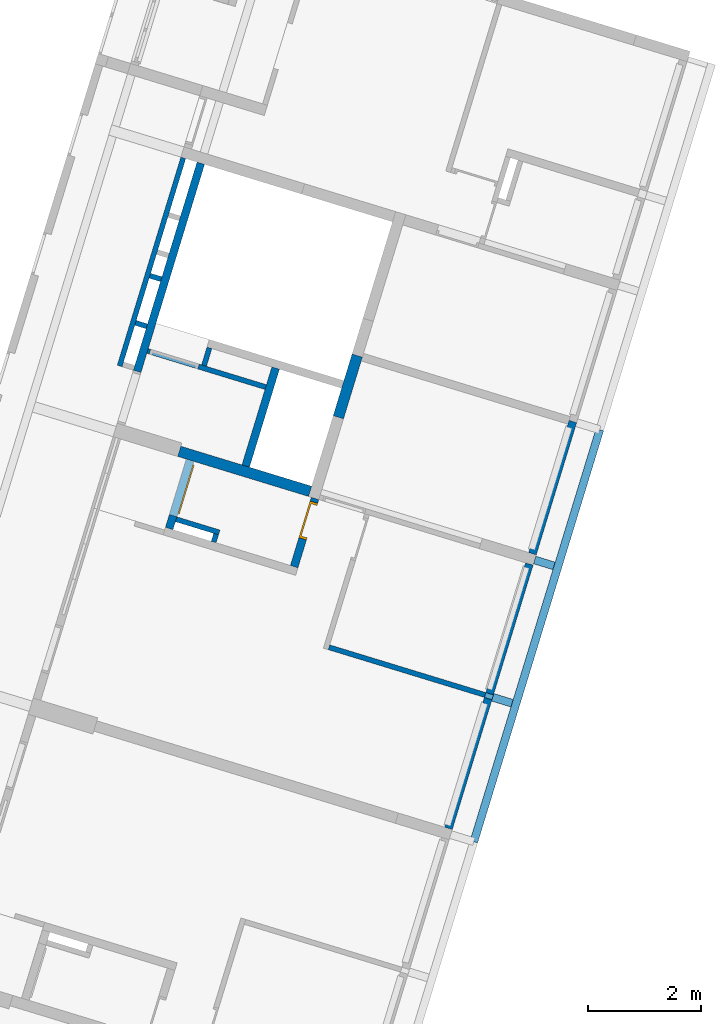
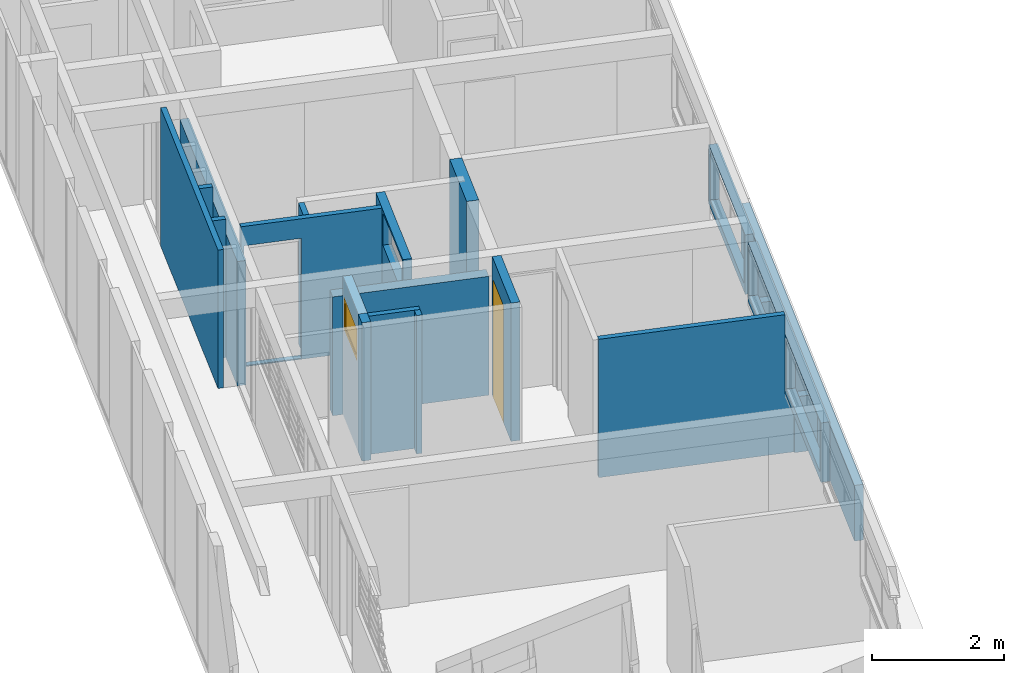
# One storey, part 14 of 18: 18 walls, 1 door, 1 window, 7 openings, plus 1 element that does not belong to this part.
"""IFC2X3 building model written with IfcOpenShell, lengths in millimetres."""

from ifc_helpers import new_model, entity, si_unit, converted_unit, derived_unit, money_unit, direction, frame, origin_with_axes, place, context, subcontext, project, spatial, open_shell, faceted_brep, surface_model, material, type_object, element, fill, save


model = new_model("IFC2X3")

# Units and contexts
model_context = context("Model", 3, precision=0.01, world=origin_with_axes(), true_north=direction((0.0, 1.0)))
body_context = subcontext(model_context, "Body", "Model", "MODEL_VIEW")
ifc_project = project(units=[si_unit("LENGTHUNIT", "METRE", prefix="MILLI"), si_unit("AREAUNIT", "SQUARE_METRE"), si_unit("VOLUMEUNIT", "CUBIC_METRE"), converted_unit("PLANEANGLEUNIT", "DEGREE", entity("IfcPlaneAngleMeasure", 0.0174532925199), si_unit("PLANEANGLEUNIT", "RADIAN"), dimensions=[0, 0, 0, 0, 0, 0, 0]), money_unit("USD"), converted_unit("TIMEUNIT", "Year", entity("IfcTimeMeasure", 31556926.0), si_unit("TIMEUNIT", "SECOND"), dimensions=[0, 0, 1, 0, 0, 0, 0]), si_unit("MASSUNIT", "GRAM", prefix="KILO"), si_unit("THERMODYNAMICTEMPERATUREUNIT", "DEGREE_CELSIUS"), si_unit("LUMINOUSINTENSITYUNIT", "LUMEN"), si_unit("ENERGYUNIT", "JOULE", prefix="MEGA"), derived_unit("THERMALCONDUCTANCEUNIT", [(si_unit("POWERUNIT", "WATT"), 1), (si_unit("LENGTHUNIT", "METRE"), -1), (si_unit("THERMODYNAMICTEMPERATUREUNIT", "KELVIN"), -1)]), derived_unit("SPECIFICHEATCAPACITYUNIT", [(si_unit("ENERGYUNIT", "JOULE"), 1), (si_unit("MASSUNIT", "GRAM", prefix="KILO"), -1), (si_unit("THERMODYNAMICTEMPERATUREUNIT", "KELVIN"), -1)]), derived_unit("MASSDENSITYUNIT", [(si_unit("MASSUNIT", "GRAM", prefix="KILO"), 1), (si_unit("VOLUMEUNIT", "CUBIC_METRE"), -1)])], contexts=[model_context])

# Site, building, storey, space
site_placement = place(None, frame((0.0, 0.0, 0.0), z_axis=(0.0, 0.0, 1.0), x_axis=(0.956304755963, -0.292371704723, 0.0)))
site = spatial("IfcSite", under=ifc_project, at=site_placement, Name="Site", CompositionType="ELEMENT")
building_placement = place(site_placement, origin_with_axes())
building = spatial("IfcBuilding", under=site, at=building_placement, Name="Building", CompositionType="ELEMENT")
storey_placement = place(building_placement, origin_with_axes())
storey = spatial("IfcBuildingStorey", under=building, at=storey_placement, Name="Pavimento tipo", CompositionType="ELEMENT", Elevation=0.0)
space_1_placement = place(storey_placement, frame((1641.71104891, 22869.9980348, 0.0), z_axis=(0.0, 0.0, 1.0), x_axis=(-1.0, 0.0, 0.0)))
space_1 = spatial("IfcSpace", under=storey, at=space_1_placement, Name="19", CompositionType="ELEMENT", InteriorOrExteriorSpace="INTERNAL")

# Wall
ifc_material = material(Name="Tijolo - Estrutural")
wall_type_1 = type_object("IfcWallType", Name="Tijolo - Estrutural 90", PredefinedType="NOTDEFINED")
wall_1_placement = place(space_1_placement, frame((299.999731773, 350.000014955, -100.0), z_axis=(0.0, 0.0, 1.0), x_axis=(-1.0, -1.66167621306e-07, 0.0)))
element("IfcWall", 1, at=wall_1_placement, inside=space_1, type_object=wall_type_1, material=ifc_material, Name="Parede 50", context=body_context, shape_type="Brep", body=[
    faceted_brep([(89.9999946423, -90.0000149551, 2560.0), (299.999609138, -90.0000498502, 2560.0), (299.999624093, -4.9850225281e-05, 2560.0), (89.9999955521, -1.49550878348e-05, 2560.0), (89.9999946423, -90.0000149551, 0.0), (299.999609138, -90.0000498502, 0.0), (299.999624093, -4.9850225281e-05, 0.0), (89.9999955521, -1.49550878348e-05, 0.0)], [[[0, 1, 2, 3]], [[4, 5, 1, 0]], [[6, 2, 1, 5]], [[3, 2, 6, 7]], [[7, 4, 0, 3]], [[7, 6, 5, 4]]]),
])

# Space
space_2_placement = place(storey_placement, frame((1641.71094123, 19800.0000381, 0.0), z_axis=(0.0, 0.0, 1.0), x_axis=(1.0, -4.87759542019e-08, 0.0)))
space_2 = spatial("IfcSpace", under=storey, at=space_2_placement, Name="06", CompositionType="ELEMENT", InteriorOrExteriorSpace="INTERNAL")

# Wall
wall_2_placement = place(space_2_placement, frame((1219.99996267, 1430.00001723, -20.0), z_axis=(0.0, 0.0, 1.0), x_axis=(-4.877595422e-08, 1.0, 0.0)))
element("IfcWall", 2, at=wall_2_placement, inside=space_2, type_object=wall_type_1, material=ifc_material, Name="Parede 76", context=body_context, shape_type="Brep", body=[
    faceted_brep([(330.0, 0.0, 2600.0), (330.000003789, 90.0, 2600.0), (-0.000223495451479, 90.0, 2600.0), (-0.000208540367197, 0.0, 2600.0), (330.0, 0.0, 0.0), (330.000003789, 90.0, 0.0), (-0.000223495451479, 90.0, 0.0), (-0.000208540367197, 0.0, 0.0)], [[[0, 1, 2, 3]], [[1, 0, 4, 5]], [[1, 5, 6, 2]], [[7, 3, 2, 6]], [[4, 0, 3, 7]], [[5, 4, 7, 6]]]),
])

# Wall, opening
wall_3_placement = place(space_2_placement, frame((2474.99996267, 1430.00007845, -20.0), z_axis=(0.0, 0.0, 1.0), x_axis=(-1.0, -2.14943574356e-07, 0.0)))
wall_3 = element("IfcWall", 3, at=wall_3_placement, inside=space_2, type_object=wall_type_1, material=ifc_material, Name="Parede 78", context=body_context, shape_type="Brep", body=[
    faceted_brep([(2335.00004737, 89.9999999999, 2480.0), (2335.00004737, 90.0, 0.0), (140.000014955, 90.0, 0.0), (140.000014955, 90.0, 2600.0), (2334.99946414, 90.0, 2600.0), (2290.00002369, 90.0, 20.0), (2290.00002369, 90.0, 2240.0), (1390.00002369, 90.0, 2240.0), (1390.00002369, 90.0, 20.0), (2335.00003242, 0.0, 2480.0), (2335.00003242, 0.0, 0.0), (140.0, 0.0, 0.0), (140.0, 0.0, 2600.0), (2334.99946414, 0.0, 2600.0), (2290.00002369, 0.0, 20.0), (2290.00002369, 0.0, 2240.0), (1390.00002369, 0.0, 2240.0), (1390.00002369, 0.0, 20.0)], [[[0, 1, 2, 3, 4], [5, 6, 7, 8]], [[1, 0, 9, 10]], [[2, 1, 10, 11]], [[2, 11, 12, 3]], [[3, 12, 13, 4]], [[13, 9, 0, 4]], [[14, 15, 6, 5]], [[15, 16, 7, 6]], [[16, 17, 8, 7]], [[17, 14, 5, 8]], [[10, 9, 13, 12, 11], [14, 17, 16, 15]]]),
])
opening_1_placement = place(wall_3_placement, frame((1840.00002369, 0.0, 20.0), z_axis=(0.0, 0.0, 1.0), x_axis=(1.0, 0.0, 0.0)))
element("IfcOpeningElement", 4, at=opening_1_placement, cuts=wall_3, Name="Porta 13", context=body_context, shape_type="Brep", body=[
    faceted_brep([(-450.0, -1.00038800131, 2220.0), (-450.0, -1.00038800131, 0.0), (450.0, -1.00038800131, 0.0), (450.0, -1.00038800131, 2220.0), (-450.0, 91.0003880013, 2220.0), (-450.0, 91.0003880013, 0.0), (450.0, 91.0003880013, 0.0), (450.0, 91.0003880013, 2220.0)], [[[0, 1, 2, 3]], [[4, 5, 1, 0]], [[5, 6, 2, 1]], [[6, 7, 3, 2]], [[7, 4, 0, 3]], [[6, 5, 4, 7]]]),
])

# Space
space_3_placement = place(storey_placement, frame((2841.71096673, 14639.9999947, 0.0), z_axis=(0.0, 0.0, 1.0), x_axis=(1.0, 1.43937078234e-07, 0.0)))
space_3 = spatial("IfcSpace", under=storey, at=space_3_placement, Name="03", CompositionType="ELEMENT", InteriorOrExteriorSpace="INTERNAL")

# Walls
wall_4_placement = place(space_3_placement, frame((3515.00035808, 2409.98418391, 0.0), z_axis=(0.0, 0.0, 1.0), x_axis=(1.0, 4.82920721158e-07, 0.0)))
element("IfcWall", 5, at=wall_4_placement, inside=space_3, type_object=wall_type_1, material=ifc_material, Name="Apt 03 - Parede 33", context=body_context, shape_type="Brep", body=[
    faceted_brep([(45.0000069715, -2.82086070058e-05, 2560.0), (2945.00260915, -0.00184609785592, 2560.0), (2945.00266459, 89.9981539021, 2560.0), (45.0000633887, 89.9999717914, 2560.0), (2945.00247042, -0.00184609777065, 1100.0), (45.0000069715, -2.82086070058e-05, 0.0), (3085.00247042, -0.00193385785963, 0.0), (3085.00247042, -0.00193385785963, 1100.0), (2945.00252684, 89.9981539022, 1100.0), (3085.00252684, 89.9980661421, 1100.0), (3085.00252684, 89.9980661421, 0.0), (45.0000633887, 89.9999717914, 0.0)], [[[0, 1, 2, 3]], [[4, 1, 0, 5, 6, 7]], [[8, 2, 1, 4]], [[3, 2, 8, 9, 10, 11]], [[11, 5, 0, 3]], [[6, 5, 11, 10]], [[6, 10, 9, 7]], [[8, 4, 7, 9]]]),
])
wall_5_placement = place(space_3_placement, frame((1100.00312609, 3879.99984025, 0.0), z_axis=(0.0, 0.0, 1.0), x_axis=(-5.06167493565e-07, -1.0, 0.0)))
element("IfcWall", 6, at=wall_5_placement, inside=space_3, type_object=wall_type_1, material=ifc_material, Name="Apt 03 - Parede 37", context=body_context, shape_type="Brep", body=[
    faceted_brep([(237.171445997, -90.0, 2560.0), (237.171445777, 0.0, 2560.0), (90.0, 0.0, 2560.0), (90.0000326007, -90.0, 2560.0), (237.171445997, -90.0, 0.0), (237.171445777, 0.0, 0.0), (90.0, 0.0, 0.0), (90.0000326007, -90.0, 0.0)], [[[0, 1, 2, 3]], [[1, 0, 4, 5]], [[1, 5, 6, 2]], [[7, 3, 2, 6]], [[4, 0, 3, 7]], [[5, 4, 7, 6]]]),
])
wall_6_placement = place(space_3_placement, frame((160.003040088, 3879.99997555, 0.0), z_axis=(0.0, 0.0, 1.0), x_axis=(1.0, -1.43937070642e-07, 0.0)))
element("IfcWall", 7, at=wall_6_placement, inside=space_3, type_object=wall_type_1, material=ifc_material, Name="Apt 03 - Parede 30", context=body_context, shape_type="Brep", body=[
    faceted_brep([(940.000053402, -90.0, 2560.0), (940.000086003, 0.0, 2560.0), (140.0, 0.0, 2560.0), (140.0, -90.0, 2560.0), (940.000053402, -90.0, 0.0), (940.000086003, 0.0, 0.0), (140.0, 0.0, 0.0), (140.0, -90.0, 0.0)], [[[0, 1, 2, 3]], [[1, 0, 4, 5]], [[1, 5, 6, 2]], [[7, 3, 2, 6]], [[4, 0, 3, 7]], [[5, 4, 7, 6]]]),
])
wall_7_placement = place(storey_placement, frame((1341.71144924, 21644.9980199, -100.0), z_axis=(0.0, 0.0, 1.0), x_axis=(1.0, 1.66167640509e-07, 0.0)))
element("IfcWall", 8, at=wall_7_placement, inside=storey, type_object=wall_type_1, material=ifc_material, Name="Parede 51", context=body_context, shape_type="Brep", body=[
    faceted_brep([(89.9999990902, -90.0000149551, 2560.0), (299.999477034, -90.0000498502, 2560.0), (299.999491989, -4.98502075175e-05, 2560.0), (90.0, -1.49550878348e-05, 2560.0), (89.9999990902, -90.0000149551, 0.0), (299.999477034, -90.0000498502, 0.0), (299.999491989, -4.98502075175e-05, 0.0), (90.0, -1.49550878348e-05, 0.0)], [[[0, 1, 2, 3]], [[4, 5, 1, 0]], [[6, 2, 1, 5]], [[3, 2, 6, 7]], [[7, 4, 0, 3]], [[7, 6, 5, 4]]]),
])
wall_8_placement = place(storey_placement, frame((1341.71098028, 24649.9980348, -100.0), z_axis=(0.0, 0.0, 1.0), x_axis=(1.56058693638e-07, -1.0, 0.0)))
element("IfcWall", 9, at=wall_8_placement, inside=storey, type_object=wall_type_1, material=ifc_material, Name="Parede 59", context=body_context, shape_type="Brep", body=[
    faceted_brep([(3865.0, 0.0, 0.0), (0.0, 0.0, 0.0), (0.0, 90.0, 0.0), (3865.00001405, 90.0, 0.0), (3865.0, 0.0, 2560.0), (0.0, 0.0, 2560.0), (0.0, 90.0, 2560.0), (3865.00001405, 90.0, 2560.0)], [[[0, 1, 2, 3]], [[4, 5, 1, 0]], [[2, 1, 5, 6]], [[3, 2, 6, 7]], [[3, 7, 4, 0]], [[7, 6, 5, 4]]]),
])
wall_type_2 = type_object("IfcWallType", Name="Tijolo - Estrutural 140", PredefinedType="NOTDEFINED")
wall_9_placement = place(storey_placement, frame((9941.71344835, 22194.9846846, 0.0), z_axis=(0.0, 0.0, 1.0), x_axis=(0.0, -1.0, 0.0)))
element("IfcWall", 10, at=wall_9_placement, inside=storey, type_object=wall_type_2, material=ifc_material, Name="Apt 03 - Parede 68", context=body_context, shape_type="Brep", body=[
    faceted_brep([(0.0, 0.0, 0.0), (7649.99465026, 0.0, 0.0), (7649.99465026, -140.0, 0.0), (0.0, -140.0, 0.0), (0.0, 0.0, 1030.0), (7649.99465026, 0.0, 1030.0), (7649.99465026, -140.0, 1030.0), (0.0, -140.0, 1030.0)], [[[0, 1, 2, 3]], [[4, 5, 1, 0]], [[2, 1, 5, 6]], [[3, 2, 6, 7]], [[4, 0, 3, 7]], [[7, 6, 5, 4]]]),
])
wall_10_placement = place(storey_placement, frame((1781.71094123, 20784.9980348, -100.0), z_axis=(0.0, 0.0, 1.0), x_axis=(0.0, 1.0, 0.0)))
element("IfcWall", 11, at=wall_10_placement, inside=storey, type_object=wall_type_2, material=ifc_material, Name="Parede 60", context=body_context, shape_type="Brep", body=[
    faceted_brep([(3864.89869597, 140.0, 0.0), (3864.89869597, 139.997492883, 2300.0), (3864.89869597, -0.00250711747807, 2300.0), (3864.89869597, 0.0, 0.0), (0.0, 140.0, 80.0), (0.0, 139.997492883, 2300.0), (0.0, 140.0, 0.0), (0.0, -0.0025071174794, 2300.0), (0.0, 0.0, 80.0), (0.0, 0.0, 0.0)], [[[0, 1, 2, 3]], [[4, 5, 1, 0, 6]], [[5, 7, 2, 1]], [[3, 2, 7, 8, 9]], [[6, 0, 3, 9]], [[8, 7, 5, 4]], [[8, 4, 6, 9]]]),
])

# Wall, opening
wall_11_placement = place(space_2_placement, frame((2475.00003535, -60.0098830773, -20.0), z_axis=(0.0, 0.0, 1.0), x_axis=(-4.877595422e-08, 1.0, 0.0)))
wall_11 = element("IfcWall", 12, at=wall_11_placement, inside=space_2, type_object=wall_type_2, material=ifc_material, Name="Parede 75", context=body_context, shape_type="Brep", body=[
    faceted_brep([(1820.00991458, 140.0, 0.0), (0.0, 140.0, 0.0), (0.0, 140.0, 2600.0), (1820.00991458, 140.0, 2600.0), (50.0099589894, 140.0, 1950.0), (1350.00995899, 140.0, 1950.0), (1350.00995899, 140.0, 2550.0), (50.0099589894, 140.0, 2550.0), (1820.00990869, 0.0, 0.0), (0.0, 0.0, 0.0), (0.0, 0.0, 2600.0), (1820.00990869, 0.0, 2600.0), (50.0099589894, 0.0, 1950.0), (1350.00995899, 0.0, 1950.0), (1350.00995899, 0.0, 2550.0), (50.0099589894, 0.0, 2550.0)], [[[0, 1, 2, 3], [4, 5, 6, 7]], [[8, 9, 1, 0]], [[10, 2, 1, 9]], [[3, 2, 10, 11]], [[11, 8, 0, 3]], [[12, 13, 5, 4]], [[13, 14, 6, 5]], [[14, 15, 7, 6]], [[15, 12, 4, 7]], [[11, 10, 9, 8], [12, 15, 14, 13]]]),
])
opening_2_placement = place(wall_11_placement, frame((700.009958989, 0.0, 1950.0), z_axis=(0.0, 0.0, 1.0), x_axis=(1.0, 0.0, 0.0)))
element("IfcOpeningElement", 13, at=opening_2_placement, cuts=wall_11, Name="J29", context=body_context, shape_type="Brep", body=[
    faceted_brep([(650.0, 141.0, 600.0), (650.0, 141.0, 0.0), (-650.0, 141.0, 0.0), (-650.0, 141.0, 600.0), (650.0, -1.0, 600.0), (650.0, -1.0, 0.0), (-650.0, -1.0, 0.0), (-650.0, -1.0, 600.0)], [[[0, 1, 2, 3]], [[4, 5, 1, 0]], [[5, 6, 2, 1]], [[6, 7, 3, 2]], [[7, 4, 0, 3]], [[6, 5, 4, 7]]]),
])

# Walls
wall_12_placement = place(space_3_placement, frame((6600.00283498, 2454.98373986, 0.0), z_axis=(0.0, 0.0, 1.0), x_axis=(1.0, -1.43937078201e-07, 0.0)))
element("IfcWall", 14, at=wall_12_placement, inside=space_3, type_object=wall_type_2, material=ifc_material, Name="Apt 03 - Parede 47", context=body_context, shape_type="Brep", body=[
    faceted_brep([(360.0, -70.0, 1030.0), (360.0, 70.0, 1030.0), (0.0, 70.0, 1030.0), (0.0, -70.0, 1030.0), (360.0, -70.0, 0.0), (360.0, 70.0, 0.0), (0.0, 70.0, 0.0), (0.0, -70.0, 0.0)], [[[0, 1, 2, 3]], [[1, 0, 4, 5]], [[1, 5, 6, 2]], [[7, 3, 2, 6]], [[4, 0, 3, 7]], [[5, 4, 7, 6]]]),
])
wall_13_placement = place(space_3_placement, frame((6600.00257877, 5004.99325667, 0.0), z_axis=(0.0, 0.0, 1.0), x_axis=(0.999999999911, 1.33435885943e-05, 0.0)))
element("IfcWall", 15, at=wall_13_placement, inside=space_3, type_object=wall_type_2, material=ifc_material, Name="Apt 03 - Parede 46", context=body_context, shape_type="Brep", body=[
    faceted_brep([(357.894440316, 70.0, 1030.0), (0.0, 70.0, 1030.0), (0.0, -70.0, 1030.0), (357.894440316, -70.0, 1030.0), (357.894440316, 70.0, 0.0), (0.0, 70.0, 0.0), (0.0, -70.0, 0.0), (357.894440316, -70.0, 0.0)], [[[0, 1, 2, 3]], [[4, 5, 1, 0]], [[1, 5, 6, 2]], [[3, 2, 6, 7]], [[7, 4, 0, 3]], [[7, 6, 5, 4]]]),
])

# Wall, opening, window
wall_14_placement = place(space_3_placement, frame((160.003040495, 3882.82886797, 0.0), z_axis=(0.0, 0.0, 1.0), x_axis=(1.43937078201e-07, 1.0, 0.0)))
wall_14 = element("IfcWall", 16, at=wall_14_placement, inside=space_3, type_object=wall_type_2, material=ifc_material, Name="Apt 03 - Parede 35", context=body_context, shape_type="Brep", body=[
    faceted_brep([(1027.16114859, 0.0, 2560.0), (1027.17110758, 0.0, 0.0), (0.0, 0.0, 0.0), (0.0, 0.0, 2560.0), (73.5855537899, 0.0, 1630.0), (953.58555379, 0.0, 1630.0), (953.58555379, 0.0, 2220.0), (73.5855537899, 0.0, 2220.0), (1027.16114859, -140.0, 2560.0), (1027.17110758, -140.0, 0.0), (0.0, -140.0, 0.0), (0.0, -140.0, 2560.0), (73.5855537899, -140.0, 1630.0), (953.58555379, -140.0, 1630.0), (953.58555379, -140.0, 2220.0), (73.5855537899, -140.0, 2220.0)], [[[0, 1, 2, 3], [4, 5, 6, 7]], [[0, 8, 9, 1]], [[2, 1, 9, 10]], [[3, 2, 10, 11]], [[8, 0, 3, 11]], [[12, 13, 5, 4]], [[13, 14, 6, 5]], [[14, 15, 7, 6]], [[15, 12, 4, 7]], [[8, 11, 10, 9], [12, 15, 14, 13]]]),
])
opening_3_placement = place(wall_14_placement, frame((513.58555379, 0.0, 1630.0), z_axis=(0.0, 0.0, 1.0), x_axis=(1.0, 0.0, 0.0)))
opening_3 = element("IfcOpeningElement", 17, at=opening_3_placement, cuts=wall_14, Name="Apt 03 - J13", context=body_context, shape_type="Brep", body=[
    faceted_brep([(-440.0, -140.0, 590.0), (440.0, -140.0, 590.0), (440.0, 1.0, 590.0), (-440.0, 1.0, 590.0), (-455.0, -140.0, -15.0), (-455.0, -140.0, 605.0), (455.0, -140.0, 605.0), (455.0, -140.0, -15.0), (440.0, -140.0, 0.0), (-440.0, -140.0, 0.0), (440.0, 1.0, 0.0), (-440.0, 1.0, 0.0), (-455.0, -141.0, -15.0), (-455.0, -141.0, 605.0), (455.0, -141.0, 605.0), (455.0, -141.0, -15.0)], [[[0, 1, 2, 3]], [[4, 5, 6, 7], [8, 1, 0, 9]], [[1, 8, 10, 2]], [[10, 11, 3, 2]], [[9, 0, 3, 11]], [[5, 4, 12, 13]], [[6, 5, 13, 14]], [[7, 6, 14, 15]], [[4, 7, 15, 12]], [[8, 9, 11, 10]], [[14, 13, 12, 15]]]),
])
window_style = type_object("IfcWindowStyle", Name="Janela 26", ConstructionType="NOTDEFINED", OperationType="SINGLE_PANEL", ParameterTakesPrecedence=False, Sizeable=False)
window_placement = place(opening_3_placement, frame((-440.0, 0.0, 0.0), z_axis=(0.0, 0.0, 1.0), x_axis=(1.0, 0.0, 0.0)))
window = element("IfcWindow", 18, at=window_placement, inside=space_3, type_object=window_style, Name="Apt 03 - J13", OverallHeight=590.0, OverallWidth=880.0, context=body_context, shape_type="SurfaceModel", body=[
    faceted_brep([(880.0, -50.0, 0.0), (880.0, -140.0, 0.0), (0.0, -140.0, 0.0), (0.0, -50.0, 0.0), (880.0, -50.0, 590.0), (880.0, -140.0, 590.0), (0.0, -140.0, 590.0), (855.0, -140.0, 25.0), (25.0, -140.0, 25.0), (25.0, -140.0, 565.0), (855.0, -140.0, 565.0), (0.0, -50.0, 590.0), (855.0, -50.0, 25.0), (855.0, -50.0, 565.0), (25.0, -50.0, 565.0), (25.0, -50.0, 25.0)], [[[0, 1, 2, 3]], [[4, 5, 1, 0]], [[1, 5, 6, 2], [7, 8, 9, 10]], [[3, 2, 6, 11]], [[0, 3, 11, 4], [12, 13, 14, 15]], [[11, 6, 5, 4]], [[15, 8, 7, 12]], [[14, 9, 8, 15]], [[13, 10, 9, 14]], [[12, 7, 10, 13]]]),
    faceted_brep([(895.0, -165.0, -15.0), (855.0, -165.0, 25.0), (855.0, -140.0, 25.0), (895.0, -140.0, -15.0), (895.0, -165.0, 605.0), (855.0, -165.0, 565.0), (855.0, -140.0, 565.0), (895.0, -140.0, 605.0)], [[[0, 1, 2, 3]], [[0, 4, 5, 1]], [[1, 5, 6, 2]], [[3, 2, 6, 7]], [[4, 0, 3, 7]], [[5, 4, 7, 6]]]),
    faceted_brep([(-15.0, -165.0, 605.0), (25.0, -165.0, 565.0), (25.0, -140.0, 565.0), (-15.0, -140.0, 605.0), (-15.0, -165.0, -15.0), (25.0, -165.0, 25.0), (25.0, -140.0, 25.0), (-15.0, -140.0, -15.0)], [[[0, 1, 2, 3]], [[0, 4, 5, 1]], [[1, 5, 6, 2]], [[3, 2, 6, 7]], [[4, 0, 3, 7]], [[5, 4, 7, 6]]]),
    faceted_brep([(-15.0, -165.0, -15.0), (25.0, -165.0, 25.0), (25.0, -140.0, 25.0), (-15.0, -140.0, -15.0), (895.0, -165.0, -15.0), (855.0, -165.0, 25.0), (855.0, -140.0, 25.0), (895.0, -140.0, -15.0)], [[[0, 1, 2, 3]], [[0, 4, 5, 1]], [[1, 5, 6, 2]], [[3, 2, 6, 7]], [[4, 0, 3, 7]], [[5, 4, 7, 6]]]),
    faceted_brep([(895.0, -165.0, 605.0), (855.0, -165.0, 565.0), (855.0, -140.0, 565.0), (895.0, -140.0, 605.0), (-15.0, -165.0, 605.0), (25.0, -165.0, 565.0), (25.0, -140.0, 565.0), (-15.0, -140.0, 605.0)], [[[0, 1, 2, 3]], [[0, 4, 5, 1]], [[1, 5, 6, 2]], [[3, 2, 6, 7]], [[4, 0, 3, 7]], [[5, 4, 7, 6]]]),
    faceted_brep([(815.0, -50.0, 525.0), (880.0, -50.0, 525.0), (880.0, 0.0, 525.0), (815.0, 0.0, 525.0), (815.0, -50.0, 65.0), (880.0, -50.0, 65.0), (880.0, 0.0, 65.0), (815.0, 0.0, 65.0)], [[[0, 1, 2, 3]], [[0, 4, 5, 1]], [[1, 5, 6, 2]], [[3, 2, 6, 7]], [[4, 0, 3, 7]], [[5, 4, 7, 6]]]),
    faceted_brep([(65.0, -50.0, 65.0), (0.0, -50.0, 65.0), (0.0, 0.0, 65.0), (65.0, 0.0, 65.0), (65.0, -50.0, 525.0), (0.0, -50.0, 525.0), (0.0, 0.0, 525.0), (65.0, 0.0, 525.0)], [[[0, 1, 2, 3]], [[0, 4, 5, 1]], [[1, 5, 6, 2]], [[3, 2, 6, 7]], [[4, 0, 3, 7]], [[5, 4, 7, 6]]]),
    faceted_brep([(815.0, -50.0, 65.0), (880.0, -50.0, 65.0), (880.0, 0.0, 65.0), (815.0, 0.0, 65.0), (65.0, -50.0, 65.0), (0.0, -50.0, 65.0), (0.0, -50.0, 0.0), (880.0, -50.0, 0.0), (880.0, 0.0, 0.0), (0.0, 0.0, 0.0), (0.0, 0.0, 65.0), (65.0, 0.0, 65.0)], [[[0, 1, 2, 3]], [[0, 4, 5, 6, 7, 1]], [[1, 7, 8, 2]], [[3, 2, 8, 9, 10, 11]], [[4, 0, 3, 11]], [[5, 4, 11, 10]], [[6, 5, 10, 9]], [[7, 6, 9, 8]]]),
    faceted_brep([(65.0, -50.0, 525.0), (0.0, -50.0, 525.0), (0.0, 0.0, 525.0), (65.0, 0.0, 525.0), (815.0, -50.0, 525.0), (880.0, -50.0, 525.0), (880.0, -50.0, 590.0), (0.0, -50.0, 590.0), (0.0, 0.0, 590.0), (880.0, 0.0, 590.0), (880.0, 0.0, 525.0), (815.0, 0.0, 525.0)], [[[0, 1, 2, 3]], [[0, 4, 5, 6, 7, 1]], [[1, 7, 8, 2]], [[3, 2, 8, 9, 10, 11]], [[4, 0, 3, 11]], [[5, 4, 11, 10]], [[6, 5, 10, 9]], [[7, 6, 9, 8]]]),
    surface_model("IfcShellBasedSurfaceModel", [(815.0, -35.0, 65.0), (815.0, -35.0, 525.0), (65.0, -35.0, 525.0), (65.0, -35.0, 65.0)], [open_shell([[[0, 1, 2, 3]]])]),
    surface_model("IfcShellBasedSurfaceModel", [(815.0, -15.0, 65.0), (65.0, -15.0, 65.0), (65.0, -15.0, 525.0), (815.0, -15.0, 525.0)], [open_shell([[[0, 1, 2, 3]]])]),
])
fill(opening_3, window)

# Wall, opening, door
wall_15_placement = place(space_3_placement, frame((2619.99946587, 3502.82762882, 0.0), z_axis=(0.0, 0.0, 1.0), x_axis=(9.34238044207e-07, 1.0, 0.0)))
wall_15 = element("IfcWall", 19, at=wall_15_placement, inside=space_3, type_object=wall_type_2, material=ifc_material, Name="Apt 03 - Parede 39", context=body_context, shape_type="Brep", body=[
    faceted_brep([(657.171992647, -0.000982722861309, 0.0), (657.171992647, 0.0, 2170.0), (1337.17199265, 0.0, 2170.0), (1337.17199265, -0.00227484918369, 0.0), (1407.16203366, -0.00240784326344, 0.0), (1407.16203366, -0.00240784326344, 2200.0), (1407.15668908, 0.0, 2560.0), (140.0, 0.0, 2560.0), (140.0, 0.0, 0.0), (657.171992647, 140.0, 0.0), (657.171992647, 140.0, 2170.0), (1337.17199265, 140.0, 2170.0), (1337.17199265, 140.0, 0.0), (1407.16192302, 140.0, 0.0), (1407.16192302, 140.000000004, 2200.0), (1407.15668908, 140.0, 2560.0), (139.999939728, 140.0, 2560.0), (139.999939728, 140.0, 0.0)], [[[0, 1, 2, 3, 4, 5, 6, 7, 8]], [[1, 0, 9, 10]], [[2, 1, 10, 11]], [[3, 2, 11, 12]], [[3, 12, 13, 4]], [[14, 5, 4, 13]], [[5, 14, 15, 6]], [[16, 7, 6, 15]], [[17, 8, 7, 16]], [[9, 0, 8, 17]], [[10, 9, 17, 16, 15, 14, 13, 12, 11]]]),
])
opening_4_placement = place(wall_15_placement, frame((997.171992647, 0.0, 0.0), z_axis=(0.0, 0.0, 1.0), x_axis=(1.0, 0.0, 0.0)))
opening_4 = element("IfcOpeningElement", 20, at=opening_4_placement, cuts=wall_15, Name="Apt 03 - Porta 09", context=body_context, shape_type="Brep", body=[
    faceted_brep([(340.0, 141.001112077, 2170.0), (340.0, 141.001112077, 0.0), (-340.0, 141.001112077, 0.0), (-340.0, 141.001112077, 2170.0), (340.0, -1.00111207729, 2170.0), (340.0, -1.00111207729, 0.0), (-340.0, -1.00111207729, 0.0), (-340.0, -1.00111207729, 2170.0)], [[[0, 1, 2, 3]], [[4, 5, 1, 0]], [[5, 6, 2, 1]], [[6, 7, 3, 2]], [[7, 4, 0, 3]], [[6, 5, 4, 7]]]),
])
door_style = type_object("IfcDoorStyle", Name="Door 26", ConstructionType="NOTDEFINED", OperationType="SINGLE_SWING_RIGHT", ParameterTakesPrecedence=False, Sizeable=False)
door_placement = place(opening_4_placement, frame((-340.0, 0.0, 0.0), z_axis=(0.0, 0.0, 1.0), x_axis=(1.0, 0.0, 0.0)))
door = element("IfcDoor", 21, at=door_placement, inside=space_3, type_object=door_style, Name="Apt 03 - Porta 09", OverallHeight=2170.0, OverallWidth=680.0, context=body_context, shape_type="Brep", body=[
    faceted_brep([(40.0, 110.0, 0.0), (40.0, 110.0, 2130.0), (40.0, 0.0, 2130.0), (40.0, 0.0, 0.0), (30.0, 110.0, 2130.0), (30.0, 110.0, 0.0), (30.0, 140.0, 2130.0), (0.0, 140.0, 2130.0), (0.0, 0.0, 2130.0), (0.0, 0.0, 0.0), (0.0, 140.0, 0.0), (30.0, 140.0, 0.0)], [[[0, 1, 2, 3]], [[4, 1, 0, 5]], [[4, 6, 7, 8, 2, 1]], [[3, 2, 8, 9]], [[5, 0, 3, 9, 10, 11]], [[6, 4, 5, 11]], [[6, 11, 10, 7]], [[10, 9, 8, 7]]]),
    faceted_brep([(650.0, 110.0, 2130.0), (640.0, 110.0, 2130.0), (640.0, 0.0, 2130.0), (680.0, 0.0, 2130.0), (680.0, 140.0, 2130.0), (650.0, 140.0, 2130.0), (650.0, 110.0, 0.0), (640.0, 110.0, 0.0), (640.0, 0.0, 0.0), (680.0, 0.0, 0.0), (680.0, 140.0, 0.0), (650.0, 140.0, 0.0)], [[[0, 1, 2, 3, 4, 5]], [[1, 0, 6, 7]], [[1, 7, 8, 2]], [[3, 2, 8, 9]], [[4, 3, 9, 10]], [[11, 5, 4, 10]], [[0, 5, 11, 6]], [[6, 11, 10, 9, 8, 7]]]),
    faceted_brep([(30.0, 140.0, 2140.0), (30.0, 140.0, 2130.0), (0.0, 140.0, 2130.0), (0.0, 140.0, 2170.0), (680.0, 140.0, 2170.0), (680.0, 140.0, 2130.0), (650.0, 140.0, 2130.0), (650.0, 140.0, 2140.0), (30.0, 110.0, 2140.0), (30.0, 110.0, 2130.0), (40.0, 110.0, 2130.0), (40.0, 0.0, 2130.0), (0.0, 0.0, 2130.0), (0.0, 0.0, 2170.0), (680.0, 0.0, 2170.0), (680.0, 0.0, 2130.0), (650.0, 110.0, 2130.0), (640.0, 0.0, 2130.0), (640.0, 110.0, 2130.0), (650.0, 110.0, 2140.0)], [[[0, 1, 2, 3, 4, 5, 6, 7]], [[1, 0, 8, 9]], [[9, 10, 11, 12, 2, 1]], [[2, 12, 13, 3]], [[3, 13, 14, 4]], [[4, 14, 15, 5]], [[16, 6, 5, 15, 17, 18]], [[7, 6, 16, 19]], [[0, 7, 19, 8]], [[16, 18, 10, 9, 8, 19]], [[10, 18, 17, 11]], [[17, 15, 14, 13, 12, 11]]]),
    faceted_brep([(650.0, 140.0, 0.0), (650.0, 110.0, 0.0), (30.0, 110.0, 0.0), (30.0, 140.0, 0.0), (650.0, 140.0, 2140.0), (650.0, 110.0, 2140.0), (30.0, 110.0, 2140.0), (30.0, 140.0, 2140.0)], [[[0, 1, 2, 3]], [[4, 5, 1, 0]], [[1, 5, 6, 2]], [[3, 2, 6, 7]], [[0, 3, 7, 4]], [[7, 6, 5, 4]]]),
])
fill(opening_4, door)

# Wall
wall_16_placement = place(space_3_placement, frame((160.002985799, 3502.82886797, 0.0), z_axis=(0.0, 0.0, 1.0), x_axis=(1.43937078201e-07, 1.0, 0.0)))
element("IfcWall", 22, at=wall_16_placement, inside=space_3, type_object=wall_type_2, material=ifc_material, Name="Apt 03 - Parede 36", context=body_context, shape_type="Brep", body=[
    faceted_brep([(139.99994963, -140.0, 2560.0), (380.0, -140.0, 2560.0), (380.0, 0.0, 2560.0), (140.0, 0.0, 2560.0), (139.99994963, -140.0, 0.0), (380.0, -140.0, 0.0), (380.0, 0.0, 0.0), (140.0, 0.0, 0.0)], [[[0, 1, 2, 3]], [[4, 5, 1, 0]], [[2, 1, 5, 6]], [[3, 2, 6, 7]], [[4, 0, 3, 7]], [[7, 6, 5, 4]]]),
])

# Wall, openings
wall_17_placement = place(space_3_placement, frame((6600.00356905, 7554.98373986, 1100.0), z_axis=(0.0, 0.0, 1.0), x_axis=(-1.43937078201e-07, -1.0, 0.0)))
wall_17 = element("IfcWall", 23, at=wall_17_placement, inside=space_3, type_object=wall_type_2, material=ifc_material, Name="Apt 03 - Parede 41", context=body_context, shape_type="Brep", body=[
    faceted_brep([(7555.0, -140.0, 1100.0), (2644.98457674, -140.0, 1100.0), (2644.98457674, -140.0, 0.0), (7555.0, -140.0, 0.0), (2719.97281133, -140.0, 1075.0), (4979.97281133, -140.0, 1075.0), (4979.97281133, -140.0, 150.0), (2719.97281133, -140.0, 150.0), (7505.00001155, -140.0, 150.0), (5245.00001155, -140.0, 150.0), (5245.00001155, -140.0, 1075.0), (7505.00001155, -140.0, 1075.0), (7555.0, 0.0, 1100.0), (2644.98457674, -0.00246586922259, 1100.0), (2644.98457674, -0.00246586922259, 0.0), (7555.0, 0.0, 0.0), (2719.97281133, 0.0, 1075.0), (4979.97281133, 0.0, 1075.0), (4979.97281133, 0.0, 150.0), (2719.97281133, 0.0, 150.0), (7505.00001155, -0.00246586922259, 150.0), (5245.00001155, -0.00246586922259, 150.0), (5245.00001155, -0.00246586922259, 1075.0), (7505.00001155, -0.00246586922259, 1075.0)], [[[0, 1, 2, 3], [4, 5, 6, 7], [8, 9, 10, 11]], [[12, 13, 1, 0]], [[2, 1, 13, 14]], [[3, 2, 14, 15]], [[15, 12, 0, 3]], [[4, 16, 17, 5]], [[17, 18, 6, 5]], [[18, 19, 7, 6]], [[7, 19, 16, 4]], [[9, 8, 20, 21]], [[22, 10, 9, 21]], [[23, 11, 10, 22]], [[8, 11, 23, 20]], [[15, 14, 13, 12], [19, 18, 17, 16], [23, 22, 21, 20]]]),
    faceted_brep([(2454.98457674, -140.0, 1100.0), (0.0, -140.0, 1100.0), (0.0, -140.0, 0.0), (2454.98457674, -140.0, 0.0), (2380.00001155, -140.0, 150.0), (120.000011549, -140.0, 150.0), (120.000011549, -140.0, 1075.0), (2380.00001155, -140.0, 1075.0), (2454.98457674, -0.00246586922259, 1100.0), (0.0, 0.0, 1100.0), (0.0, 0.0, 0.0), (2454.98457674, -0.00246586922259, 0.0), (2380.00001155, 0.0, 150.0), (120.000011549, 0.0, 150.0), (120.000011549, 0.0, 1075.0), (2380.00001155, 0.0, 1075.0)], [[[0, 1, 2, 3], [4, 5, 6, 7]], [[8, 9, 1, 0]], [[1, 9, 10, 2]], [[3, 2, 10, 11]], [[8, 0, 3, 11]], [[5, 4, 12, 13]], [[14, 6, 5, 13]], [[15, 7, 6, 14]], [[4, 7, 15, 12]], [[11, 10, 9, 8], [15, 14, 13, 12]]]),
])
opening_5_placement = place(wall_17_placement, frame((1250.00001155, 0.0, 150.0), z_axis=(0.0, 0.0, 1.0), x_axis=(1.0, 0.0, 0.0)))
element("IfcOpeningElement", 24, at=opening_5_placement, cuts=wall_17, Name="Apt 03 - J10", context=body_context, shape_type="Brep", body=[
    faceted_brep([(1145.0, -141.0, 940.0), (-1145.0, -141.0, 940.0), (-1145.0, -141.0, -15.0), (1145.0, -141.0, -15.0), (1145.0, -140.0, 940.0), (-1145.0, -140.0, 940.0), (-1145.0, -140.0, -15.0), (1145.0, -140.0, -15.0), (1130.0, -140.0, 925.0), (-1130.0, -140.0, 925.0), (-1130.0, -140.0, 0.0), (1130.0, -140.0, 0.0), (1130.0, -50.0, 925.0), (1130.0, 0.999999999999, 925.0), (-1130.0, 0.999999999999, 925.0), (-1130.0, -50.0, 925.0), (-1130.0, -50.0, 0.0), (-1130.0, 0.999999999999, 0.0), (1130.0, 0.999999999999, 0.0), (1130.0, -50.0, 0.0)], [[[0, 1, 2, 3]], [[4, 5, 1, 0]], [[5, 6, 2, 1]], [[6, 7, 3, 2]], [[7, 4, 0, 3]], [[6, 5, 4, 7], [8, 9, 10, 11]], [[9, 8, 12, 13, 14, 15]], [[10, 9, 15, 16]], [[11, 10, 16, 17, 18, 19]], [[8, 11, 19, 12]], [[12, 19, 18, 13]], [[13, 18, 17, 14]], [[16, 15, 14, 17]]]),
])
opening_6_placement = place(wall_17_placement, frame((3849.97281133, 0.0, 150.0), z_axis=(0.0, 0.0, 1.0), x_axis=(1.0, 0.0, 0.0)))
element("IfcOpeningElement", 25, at=opening_6_placement, cuts=wall_17, Name="Apt 03 - J11", context=body_context, shape_type="Brep", body=[
    faceted_brep([(-1145.0, -141.0, -15.0), (1145.0, -141.0, -15.0), (1145.0, -141.0, 940.0), (-1145.0, -141.0, 940.0), (-1145.0, -140.0, -15.0), (1145.0, -140.0, -15.0), (1145.0, -140.0, 940.0), (-1145.0, -140.0, 940.0), (1130.0, -140.0, 925.0), (-1130.0, -140.0, 925.0), (-1130.0, -140.0, 0.0), (1130.0, -140.0, 0.0), (1130.0, -50.0, 925.0), (1130.0, 0.999999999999, 925.0), (-1130.0, 0.999999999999, 925.0), (-1130.0, -50.0, 925.0), (-1130.0, -50.0, 0.0), (-1130.0, 0.999999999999, 0.0), (1130.0, 0.999999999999, 0.0), (1130.0, -50.0, 0.0)], [[[0, 1, 2, 3]], [[4, 5, 1, 0]], [[5, 6, 2, 1]], [[6, 7, 3, 2]], [[7, 4, 0, 3]], [[6, 5, 4, 7], [8, 9, 10, 11]], [[9, 8, 12, 13, 14, 15]], [[10, 9, 15, 16]], [[11, 10, 16, 17, 18, 19]], [[8, 11, 19, 12]], [[12, 19, 18, 13]], [[13, 18, 17, 14]], [[16, 15, 14, 17]]]),
])
opening_7_placement = place(wall_17_placement, frame((6375.00001155, 0.0, 150.0), z_axis=(0.0, 0.0, 1.0), x_axis=(1.0, 0.0, 0.0)))
element("IfcOpeningElement", 26, at=opening_7_placement, cuts=wall_17, Name="Apt 03 - J12", context=body_context, shape_type="Brep", body=[
    faceted_brep([(-1145.0, -141.0, -15.0), (1145.0, -141.0, -15.0), (1145.0, -141.0, 940.0), (-1145.0, -141.0, 940.0), (-1145.0, -140.0, -15.0), (1145.0, -140.0, -15.0), (1145.0, -140.0, 940.0), (-1145.0, -140.0, 940.0), (1130.0, -140.0, 925.0), (-1130.0, -140.0, 925.0), (-1130.0, -140.0, 0.0), (1130.0, -140.0, 0.0), (1130.0, -50.0, 925.0), (1130.0, 0.999999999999, 925.0), (-1130.0, 0.999999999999, 925.0), (-1130.0, -50.0, 925.0), (-1130.0, -50.0, 0.0), (-1130.0, 0.999999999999, 0.0), (1130.0, 0.999999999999, 0.0), (1130.0, -50.0, 0.0)], [[[0, 1, 2, 3]], [[4, 5, 1, 0]], [[5, 6, 2, 1]], [[6, 7, 3, 2]], [[7, 4, 0, 3]], [[6, 5, 4, 7], [8, 9, 10, 11]], [[9, 8, 12, 13, 14, 15]], [[10, 9, 15, 16]], [[11, 10, 16, 17, 18, 19]], [[8, 11, 19, 12]], [[12, 19, 18, 13]], [[13, 18, 17, 14]], [[16, 15, 14, 17]]]),
])

# Walls
wall_type_3 = type_object("IfcWallType", Name="Tijolo - Estrutural 190", PredefinedType="NOTDEFINED")
wall_18_placement = place(storey_placement, frame((5271.71097365, 19644.9999933, 0.0), z_axis=(0.0, 0.0, 1.0), x_axis=(-1.0, 0.0, 0.0)))
element("IfcWall", 27, at=wall_18_placement, inside=storey, type_object=wall_type_3, material=ifc_material, Name="Apt 03 - Parede 28", context=body_context, shape_type="Brep", body=[
    faceted_brep([(0.0, 95.0, 2200.0), (0.0, -95.0, 2200.0), (2429.9999908, -95.0, 2200.0), (2429.9999908, 95.0, 2200.0), (0.0, 95.0, 0.0), (0.0, -95.0, 0.0), (2429.9999908, -95.0, 0.0), (2429.9999908, 95.0, 0.0)], [[[0, 1, 2, 3]], [[4, 5, 1, 0]], [[1, 5, 6, 2]], [[7, 3, 2, 6]], [[4, 0, 3, 7]], [[5, 4, 7, 6]]]),
])
wall_19_placement = place(storey_placement, frame((5366.71102185, 22195.0001034, 0.0), z_axis=(0.0, 0.0, 1.0), x_axis=(-4.20997939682e-08, -1.0, 0.0)))
element("IfcWall", 28, at=wall_19_placement, inside=storey, type_object=wall_type_3, material=ifc_material, Name="Apt 03 - Parede 38", context=body_context, shape_type="Brep", body=[
    faceted_brep([(1145.00007884, -94.9975253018, 2560.0), (1145.00007085, 95.0000482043, 2560.0), (-3.99948163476e-06, 95.0, 2560.0), (3.99947808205e-06, -95.0, 2560.0), (1145.00007884, -94.9999517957, 0.0), (1145.00007085, 95.0000482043, 0.0), (-3.99948163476e-06, 95.0, 0.0), (3.99947808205e-06, -95.0, 0.0)], [[[0, 1, 2, 3]], [[0, 4, 5, 1]], [[1, 5, 6, 2]], [[3, 2, 6, 7]], [[4, 0, 3, 7]], [[5, 4, 7, 6]]]),
])

save(model, "model.ifc")
